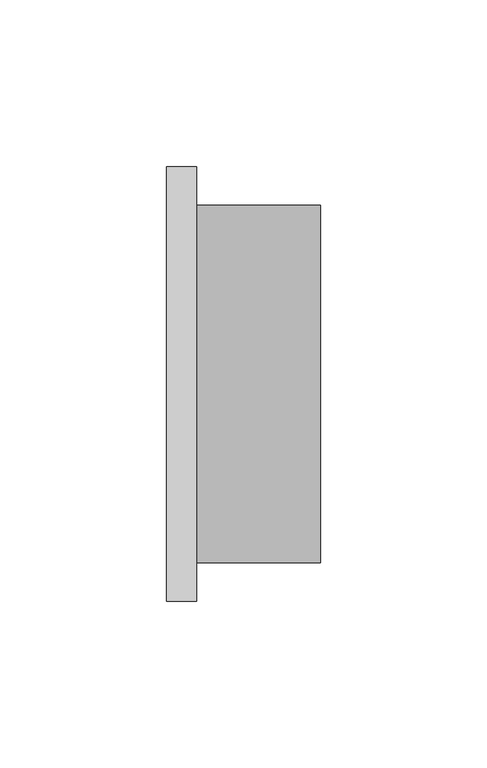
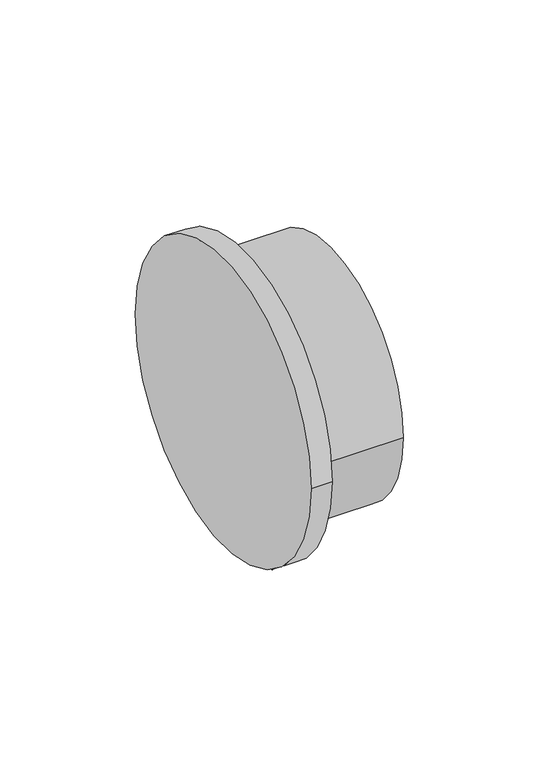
"""IFC4 building model written with IfcOpenShell, lengths in millimetres: pipe fitting geometry, NIRON RED termofusion casquillo : Estándar."""

from ifc_helpers import new_model, si_unit, point, frame, origin, origin_2d, place, context, project, spatial, circle_curve, trimmed, segment, composite_curve, outline, extrude, source, transform, mapped, element, save


def pipe_fitting_7e8d2366(model_context):
    return source(origin(), model_context, "Body", "SweptSolid", [
        extrude(outline(composite_curve([segment(trimmed(circle_curve(origin_2d(), 53.5), [point((53.5, 0.0))], [point((-53.5, 0.0))], False, "CARTESIAN"), True, "CONTINUOUS"), segment(trimmed(circle_curve(origin_2d(), 53.5), [point((-53.5, 0.0))], [point((53.5, 0.0))], False, "CARTESIAN"), True, "CONTINUOUS")], self_intersect=False)), frame((9.0, 0.0, 0.0), z_axis=(1.0, 0.0, 0.0), x_axis=(0.0, 1.0, 0.0)), (0.0, 0.0, 1.0), 37.0),
        extrude(outline(composite_curve([segment(trimmed(circle_curve(origin_2d(), 65.0), [point((-65.0, 0.0))], [point((65.0, 0.0))], False, "CARTESIAN"), True, "CONTINUOUS"), segment(trimmed(circle_curve(origin_2d(), 65.0), [point((65.0, 0.0))], [point((-65.0, 0.0))], False, "CARTESIAN"), True, "CONTINUOUS")], self_intersect=False)), frame((0.0, 0.0, 0.0), z_axis=(1.0, 0.0, 0.0), x_axis=(0.0, 1.0, 0.0)), (0.0, 0.0, 1.0), 9.0),
    ])


if __name__ == "__main__":
    model = new_model("IFC4")
    model_context = context("Model", 3, world=origin())
    ifc_project = project(units=[si_unit("LENGTHUNIT", "METRE", prefix="MILLI")], contexts=[model_context])
    site = spatial("IfcSite", under=ifc_project)
    building = spatial("IfcBuilding", under=site)
    placement = place(None, origin())
    pipe_fitting_shape = pipe_fitting_7e8d2366(model_context)
    element("IfcPipeFitting", 1, ObjectType="NIRON RED termofusion casquillo : Estándar", at=placement, inside=building, context=model_context, shape_type="MappedRepresentation", body=[
        mapped(pipe_fitting_shape, transform((0.0, 0.0, 0.0), x_axis=(1.0, 0.0, 0.0), y_axis=(0.0, 1.0, 0.0), z_axis=(0.0, 0.0, 1.0))),
    ])
    save(model, "model.ifc")
